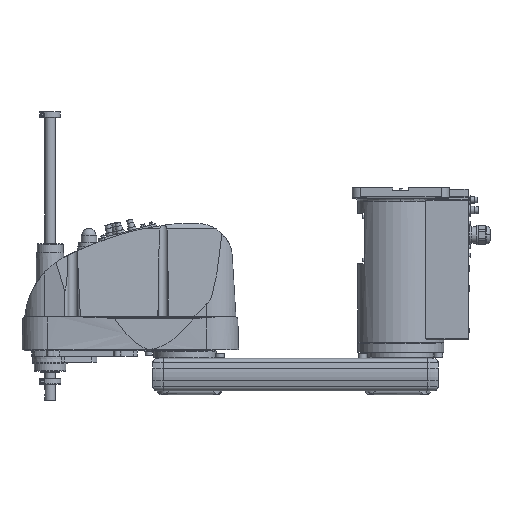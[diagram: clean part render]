
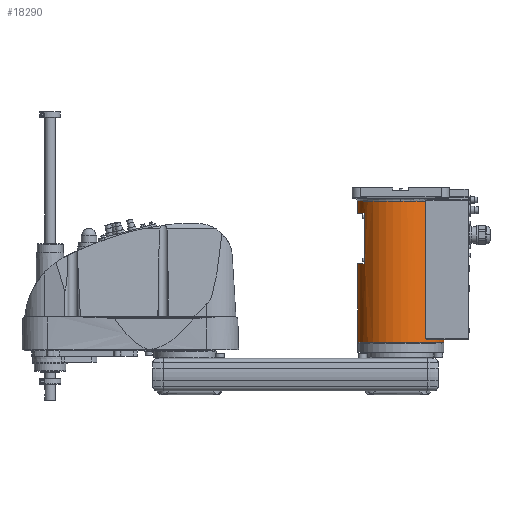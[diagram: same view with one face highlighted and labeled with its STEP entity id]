
A CAD part, top view. The second image highlights one B-rep face of the part: STEP entity #18290.
In plain terms, the highlighted cylindrical face has radius 80 mm (diameter 160 mm), a partial arc.
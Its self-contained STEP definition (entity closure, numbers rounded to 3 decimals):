
#9822 = VERTEX_POINT( '', #26164 );
#10292 = VERTEX_POINT( '', #26693 );
#10416 = VERTEX_POINT( '', #26836 );
#10918 = VERTEX_POINT( '', #27397 );
#11116 = EDGE_CURVE( '', #23758, #10918, #27619, .T. );
#11450 = EDGE_CURVE( '', #9822, #13712, #28000, .T. );
#12204 = EDGE_CURVE( '', #16528, #16348, #28841, .T. );
#13712 = VERTEX_POINT( '', #30521 );
#14352 = EDGE_CURVE( '', #15446, #10292, #31234, .T. );
#14746 = EDGE_CURVE( '', #16528, #23432, #31672, .T. );
#15246 = EDGE_CURVE( '', #10292, #19922, #32217, .T. );
#15446 = VERTEX_POINT( '', #32437 );
#16348 = VERTEX_POINT( '', #33437 );
#16528 = VERTEX_POINT( '', #33634 );
#17598 = VERTEX_POINT( '', #34818 );
#18290 = ADVANCED_FACE( '', ( #35590 ), #35591, .T. );
#18476 = EDGE_CURVE( '', #13712, #10416, #35802, .T. );
#18780 = EDGE_CURVE( '', #10918, #9822, #36137, .T. );
#19922 = VERTEX_POINT( '', #37424 );
#20722 = EDGE_CURVE( '', #23432, #19922, #38307, .T. );
#20984 = EDGE_CURVE( '', #10416, #17598, #38599, .T. );
#21224 = EDGE_CURVE( '', #16348, #23758, #38860, .T. );
#23432 = VERTEX_POINT( '', #41323 );
#23758 = VERTEX_POINT( '', #41697 );
#23810 = EDGE_CURVE( '', #17598, #15446, #41756, .T. );
#26164 = CARTESIAN_POINT( '', ( -80., 176., 0. ) );
#26693 = CARTESIAN_POINT( '', ( 46.637, 37.5, 65. ) );
#26836 = CARTESIAN_POINT( '', ( 80., 30., 0. ) );
#27397 = CARTESIAN_POINT( '', ( -66., 176., 45.211 ) );
#27619 = LINE( '', #47454, #47455 );
#28000 = LINE( '', #47972, #47973 );
#28841 = LINE( '', #49220, #49221 );
#30521 = CARTESIAN_POINT( '', ( -80., 30., 0. ) );
#31234 = B_SPLINE_CURVE_WITH_KNOTS( '', 3, ( #52968, #52969, #52970, #52971, #52972, #52973, #52974, #52975, #52976, #52977, #52978, #52979, #52980, #52981, #52982, #52983 ), .UNSPECIFIED., .F., .F., ( 4, 2, 2, 2, 2, 2, 2, 4 ), ( -6.06, -5.11, -4.16, -2.26, -1.695, -1.13, -0.565, 0. ), .UNSPECIFIED. );
#31672 = CIRCLE( '', #53822, 80. );
#32217 = LINE( '', #54675, #54676 );
#32437 = CARTESIAN_POINT( '', ( 50.557, 34.5, 62. ) );
#33437 = CARTESIAN_POINT( '', ( -80., 269., 0. ) );
#33634 = CARTESIAN_POINT( '', ( -80., 291.5, 0. ) );
#34818 = CARTESIAN_POINT( '', ( 80., 34.5, 0. ) );
#35590 = FACE_OUTER_BOUND( '', #59760, .T. );
#35591 = CYLINDRICAL_SURFACE( '', #59761, 80. );
#35802 = CIRCLE( '', #60103, 80. );
#36137 = CIRCLE( '', #60678, 80. );
#37424 = CARTESIAN_POINT( '', ( 46.637, 291.5, 65. ) );
#38307 = CIRCLE( '', #64049, 80. );
#38599 = LINE( '', #64495, #64496 );
#38860 = CIRCLE( '', #64912, 80. );
#41323 = CARTESIAN_POINT( '', ( 0., 291.5, 80. ) );
#41697 = CARTESIAN_POINT( '', ( -66., 269., 45.211 ) );
#41756 = CIRCLE( '', #69389, 80. );
#47454 = CARTESIAN_POINT( '', ( -66., 222.5, 45.211 ) );
#47455 = VECTOR( '', #74090, 1. );
#47972 = CARTESIAN_POINT( '', ( -80., 160.75, 0. ) );
#47973 = VECTOR( '', #74571, 1. );
#49220 = CARTESIAN_POINT( '', ( -80., 160.75, 0. ) );
#49221 = VECTOR( '', #75470, 1. );
#52968 = CARTESIAN_POINT( '', ( 50.557, 34.5, 62. ) );
#52969 = CARTESIAN_POINT( '', ( 50.312, 34.5, 62.2 ) );
#52970 = CARTESIAN_POINT( '', ( 50.054, 34.52, 62.407 ) );
#52971 = CARTESIAN_POINT( '', ( 49.533, 34.607, 62.822 ) );
#52972 = CARTESIAN_POINT( '', ( 49.269, 34.674, 63.029 ) );
#52973 = CARTESIAN_POINT( '', ( 48.491, 34.945, 63.632 ) );
#52974 = CARTESIAN_POINT( '', ( 47.991, 35.221, 64.009 ) );
#52975 = CARTESIAN_POINT( '', ( 47.455, 35.701, 64.405 ) );
#52976 = CARTESIAN_POINT( '', ( 47.333, 35.827, 64.495 ) );
#52977 = CARTESIAN_POINT( '', ( 47.106, 36.105, 64.661 ) );
#52978 = CARTESIAN_POINT( '', ( 47.002, 36.258, 64.736 ) );
#52979 = CARTESIAN_POINT( '', ( 46.828, 36.585, 64.863 ) );
#52980 = CARTESIAN_POINT( '', ( 46.758, 36.761, 64.913 ) );
#52981 = CARTESIAN_POINT( '', ( 46.662, 37.124, 64.982 ) );
#52982 = CARTESIAN_POINT( '', ( 46.637, 37.312, 65. ) );
#52983 = CARTESIAN_POINT( '', ( 46.637, 37.5, 65. ) );
#53822 = AXIS2_PLACEMENT_3D( '', #78736, #78737, #78738 );
#54675 = CARTESIAN_POINT( '', ( 46.637, 164.5, 65. ) );
#54676 = VECTOR( '', #79297, 1. );
#59760 = EDGE_LOOP( '', ( #83047, #83048, #83049, #83050, #83051, #83052, #83053, #83054, #83055, #83056, #83057, #83058 ) );
#59761 = AXIS2_PLACEMENT_3D( '', #83059, #83060, #83061 );
#60103 = AXIS2_PLACEMENT_3D( '', #83357, #83358, #83359 );
#60678 = AXIS2_PLACEMENT_3D( '', #83731, #83732, #83733 );
#64049 = AXIS2_PLACEMENT_3D( '', #86229, #86230, #86231 );
#64495 = CARTESIAN_POINT( '', ( 80., 160.75, 0. ) );
#64496 = VECTOR( '', #86561, 1. );
#64912 = AXIS2_PLACEMENT_3D( '', #86808, #86809, #86810 );
#69389 = AXIS2_PLACEMENT_3D( '', #90225, #90226, #90227 );
#74090 = DIRECTION( '', ( 0., -1., 0. ) );
#74571 = DIRECTION( '', ( 0., -1., 0. ) );
#75470 = DIRECTION( '', ( 0., -1., 0. ) );
#78736 = CARTESIAN_POINT( '', ( 0., 291.5, 0. ) );
#78737 = DIRECTION( '', ( 0., 1., 0. ) );
#78738 = DIRECTION( '', ( 1., 0., 0. ) );
#79297 = DIRECTION( '', ( 0., 1., 0. ) );
#83047 = ORIENTED_EDGE( '', *, *, #20984, .T. );
#83048 = ORIENTED_EDGE( '', *, *, #23810, .T. );
#83049 = ORIENTED_EDGE( '', *, *, #14352, .T. );
#83050 = ORIENTED_EDGE( '', *, *, #15246, .T. );
#83051 = ORIENTED_EDGE( '', *, *, #20722, .F. );
#83052 = ORIENTED_EDGE( '', *, *, #14746, .F. );
#83053 = ORIENTED_EDGE( '', *, *, #12204, .T. );
#83054 = ORIENTED_EDGE( '', *, *, #21224, .T. );
#83055 = ORIENTED_EDGE( '', *, *, #11116, .T. );
#83056 = ORIENTED_EDGE( '', *, *, #18780, .T. );
#83057 = ORIENTED_EDGE( '', *, *, #11450, .T. );
#83058 = ORIENTED_EDGE( '', *, *, #18476, .T. );
#83059 = CARTESIAN_POINT( '', ( 0., 160.75, 0. ) );
#83060 = DIRECTION( '', ( 0., -1., 0. ) );
#83061 = DIRECTION( '', ( 1., 0., 0. ) );
#83357 = CARTESIAN_POINT( '', ( 0., 30., 0. ) );
#83358 = DIRECTION( '', ( 0., 1., 0. ) );
#83359 = DIRECTION( '', ( 1., 0., 0. ) );
#83731 = CARTESIAN_POINT( '', ( 0., 176., 0. ) );
#83732 = DIRECTION( '', ( 0., -1., 0. ) );
#83733 = DIRECTION( '', ( 1., 0., 0. ) );
#86229 = CARTESIAN_POINT( '', ( 0., 291.5, 0. ) );
#86230 = DIRECTION( '', ( 0., 1., 0. ) );
#86231 = DIRECTION( '', ( 1., 0., 0. ) );
#86561 = DIRECTION( '', ( 0., 1., 0. ) );
#86808 = CARTESIAN_POINT( '', ( 0., 269., 0. ) );
#86809 = DIRECTION( '', ( 0., 1., 0. ) );
#86810 = DIRECTION( '', ( 1., 0., 0. ) );
#90225 = CARTESIAN_POINT( '', ( 0., 34.5, 0. ) );
#90226 = DIRECTION( '', ( 0., -1., 0. ) );
#90227 = DIRECTION( '', ( 1., 0., 0. ) );
